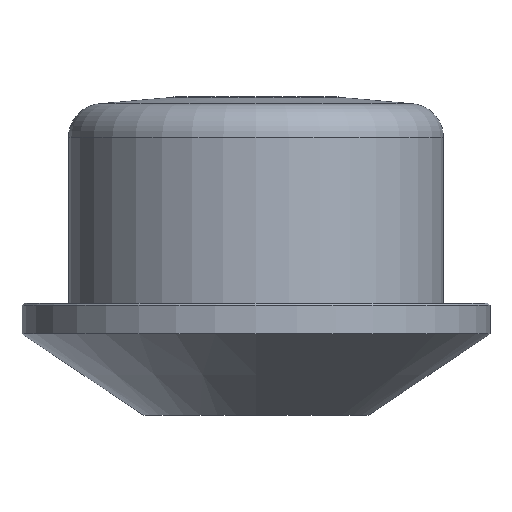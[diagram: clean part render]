
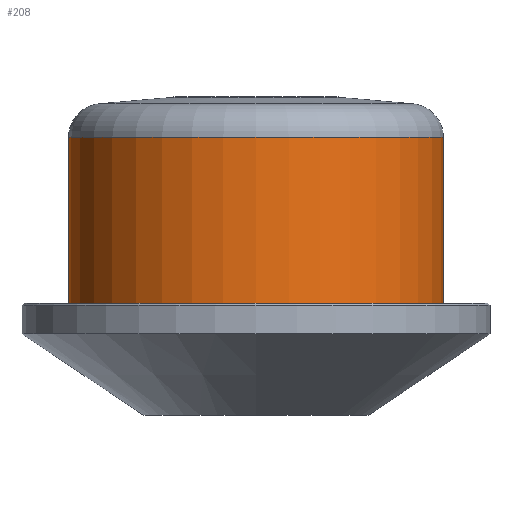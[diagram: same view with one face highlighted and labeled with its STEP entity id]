
A CAD part, front view. The second image highlights one B-rep face of the part: STEP entity #208.
In plain terms, the highlighted cylindrical face has radius 23.415 mm (diameter 46.83 mm), a full revolution.
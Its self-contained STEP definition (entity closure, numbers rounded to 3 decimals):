
#129=CYLINDRICAL_SURFACE('',#990,23.415);
#208=ADVANCED_FACE('AC_ALIGN1',(#286,#287),#129,.T.);
#286=FACE_BOUND('',#365,.T.);
#287=FACE_BOUND('',#366,.T.);
#365=EDGE_LOOP('',(#551));
#366=EDGE_LOOP('',(#552));
#551=ORIENTED_EDGE('',*,*,#725,.T.);
#552=ORIENTED_EDGE('',*,*,#724,.T.);
#631=VERTEX_POINT('',#1451);
#632=VERTEX_POINT('',#1454);
#724=EDGE_CURVE('',#631,#631,#901,.T.);
#725=EDGE_CURVE('',#632,#632,#902,.T.);
#901=CIRCLE('',#987,23.415);
#902=CIRCLE('',#989,23.415);
#987=AXIS2_PLACEMENT_3D('',#1450,#1216,#1217);
#989=AXIS2_PLACEMENT_3D('',#1453,#1220,#1221);
#990=AXIS2_PLACEMENT_3D('',#1455,#1222,#1223);
#1216=DIRECTION('',(0.,0.,-1.));
#1217=DIRECTION('',(-1.,0.,0.));
#1220=DIRECTION('',(0.,0.,1.));
#1221=DIRECTION('',(-1.,0.,0.));
#1222=DIRECTION('',(0.,0.,-1.));
#1223=DIRECTION('',(-1.,0.,0.));
#1450=CARTESIAN_POINT('',(0.,0.,100.742));
#1451=CARTESIAN_POINT('',(-23.415,0.,100.742));
#1453=CARTESIAN_POINT('',(0.,0.,78.375));
#1454=CARTESIAN_POINT('',(-23.415,0.,78.375));
#1455=CARTESIAN_POINT('',(0.,0.,105.825));
